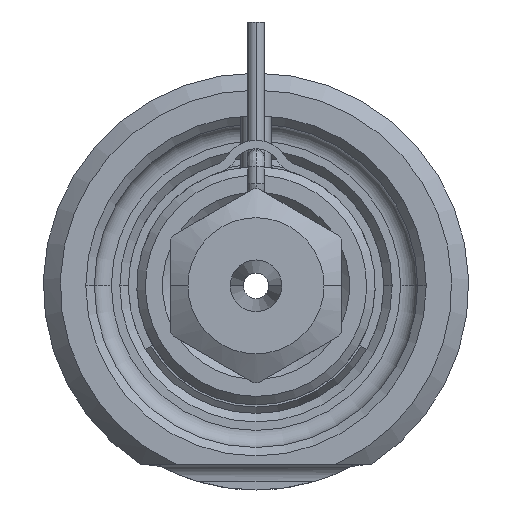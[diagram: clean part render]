
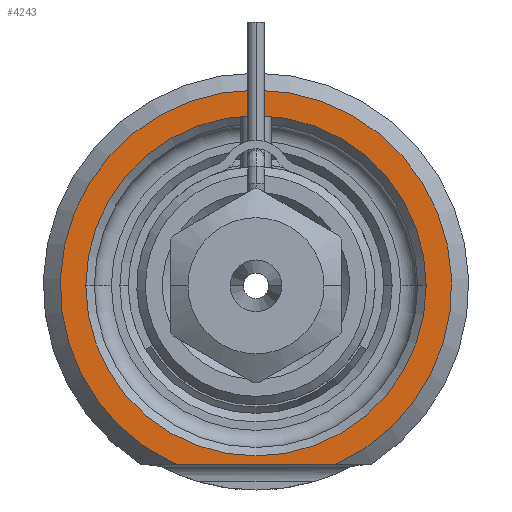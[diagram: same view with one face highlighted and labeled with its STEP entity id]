
A CAD part, front view. The second image highlights one B-rep face of the part: STEP entity #4243.
In plain terms, the highlighted planar face has unit normal (0, -1, 0).
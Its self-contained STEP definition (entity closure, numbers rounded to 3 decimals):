
#1359=CARTESIAN_POINT('',(0.,0.,0.));
#1360=DIRECTION('',(0.,-1.,0.));
#1361=DIRECTION('',(0.408,0.,-0.913));
#1362=AXIS2_PLACEMENT_3D('',#1359,#1360,#1361);
#1383=DIRECTION('',(1.,0.,0.));
#1384=VECTOR('',#1383,9.381);
#1385=CARTESIAN_POINT('',(-4.69,0.,-10.5));
#1386=LINE('',#1385,#1384);
#1387=CARTESIAN_POINT('',(0.,0.,0.));
#1388=DIRECTION('',(0.,1.,0.));
#1389=DIRECTION('',(-1.,0.,0.));
#1390=AXIS2_PLACEMENT_3D('',#1387,#1388,#1389);
#1392=CARTESIAN_POINT('',(0.,0.,0.));
#1393=DIRECTION('',(0.,1.,0.));
#1394=DIRECTION('',(1.,0.,0.));
#1395=AXIS2_PLACEMENT_3D('',#1392,#1393,#1394);
#2330=CARTESIAN_POINT('',(-10.,0.,0.));
#2331=CARTESIAN_POINT('',(10.,0.,0.));
#2332=VERTEX_POINT('',#2330);
#2333=VERTEX_POINT('',#2331);
#2374=CARTESIAN_POINT('',(-4.69,0.,-10.5));
#2375=CARTESIAN_POINT('',(4.69,0.,-10.5));
#2376=VERTEX_POINT('',#2374);
#2377=VERTEX_POINT('',#2375);
#4228=CARTESIAN_POINT('',(0.,0.,0.));
#4229=DIRECTION('',(0.,-1.,0.));
#4230=DIRECTION('',(1.,0.,0.));
#4231=AXIS2_PLACEMENT_3D('',#4228,#4229,#4230);
#4232=PLANE('',#4231);
#4233=ORIENTED_EDGE('',*,*,#4163,.F.);
#4234=ORIENTED_EDGE('',*,*,#4220,.F.);
#4235=EDGE_LOOP('',(#4233,#4234));
#4236=FACE_OUTER_BOUND('',#4235,.F.);
#4238=ORIENTED_EDGE('',*,*,#4237,.F.);
#4240=ORIENTED_EDGE('',*,*,#4239,.F.);
#4241=EDGE_LOOP('',(#4238,#4240));
#4242=FACE_BOUND('',#4241,.F.);
#4243=ADVANCED_FACE('',(#4236,#4242),#4232,.T.);
#1363=CIRCLE('',#1362,11.5);
#1391=CIRCLE('',#1390,10.);
#1396=CIRCLE('',#1395,10.);
#4163=EDGE_CURVE('',#2376,#2377,#1386,.T.);
#4220=EDGE_CURVE('',#2377,#2376,#1363,.T.);
#4237=EDGE_CURVE('',#2332,#2333,#1391,.T.);
#4239=EDGE_CURVE('',#2333,#2332,#1396,.T.);
